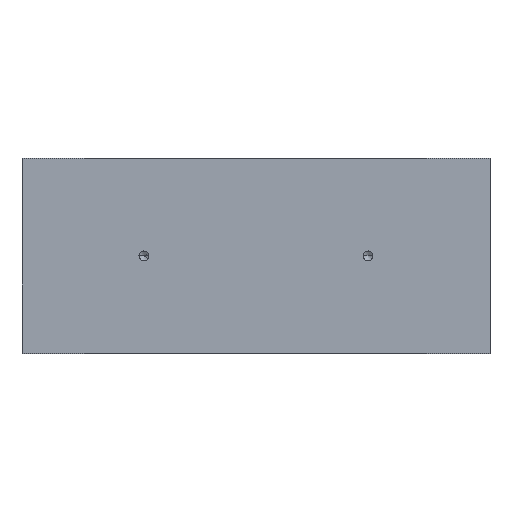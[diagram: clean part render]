
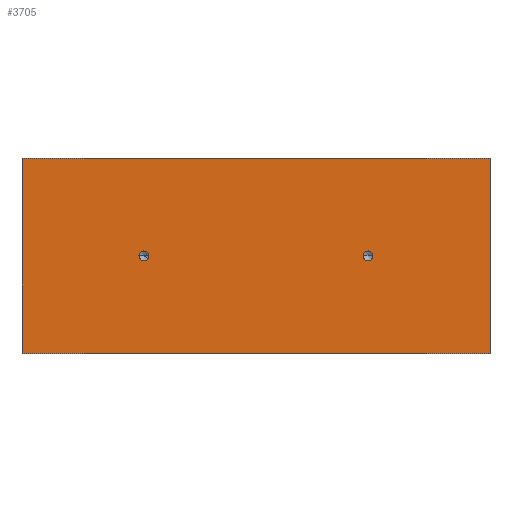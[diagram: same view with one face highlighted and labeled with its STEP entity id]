
A CAD part, top view. The second image highlights one B-rep face of the part: STEP entity #3705.
In plain terms, the highlighted planar face has unit normal (0, 0, 1).
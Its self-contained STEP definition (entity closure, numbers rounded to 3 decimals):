
#44=DIRECTION('',(0.,-1.,0.));
#45=VECTOR('',#44,40.);
#46=CARTESIAN_POINT('',(0.,40.,0.));
#47=LINE('',#46,#45);
#117=DIRECTION('',(1.,0.,0.));
#118=VECTOR('',#117,96.);
#119=CARTESIAN_POINT('',(0.,0.,0.));
#120=LINE('',#119,#118);
#268=DIRECTION('',(1.,0.,0.));
#269=VECTOR('',#268,96.);
#270=CARTESIAN_POINT('',(0.,40.,0.));
#271=LINE('',#270,#269);
#275=CARTESIAN_POINT('',(25.,20.,0.));
#276=DIRECTION('',(0.,0.,1.));
#277=DIRECTION('',(-1.,0.,0.));
#278=AXIS2_PLACEMENT_3D('',#275,#276,#277);
#283=CARTESIAN_POINT('',(25.,20.,0.));
#284=DIRECTION('',(0.,0.,1.));
#285=DIRECTION('',(1.,0.,0.));
#286=AXIS2_PLACEMENT_3D('',#283,#284,#285);
#291=CARTESIAN_POINT('',(71.,20.,0.));
#292=DIRECTION('',(0.,0.,1.));
#293=DIRECTION('',(-1.,0.,0.));
#294=AXIS2_PLACEMENT_3D('',#291,#292,#293);
#299=CARTESIAN_POINT('',(71.,20.,0.));
#300=DIRECTION('',(0.,0.,1.));
#301=DIRECTION('',(1.,0.,0.));
#302=AXIS2_PLACEMENT_3D('',#299,#300,#301);
#472=DIRECTION('',(0.,-1.,0.));
#473=VECTOR('',#472,40.);
#474=CARTESIAN_POINT('',(96.,40.,0.));
#475=LINE('',#474,#473);
#3219=CARTESIAN_POINT('',(0.,0.,0.));
#3221=VERTEX_POINT('',#3219);
#3225=CARTESIAN_POINT('',(0.,40.,0.));
#3226=VERTEX_POINT('',#3225);
#3227=CARTESIAN_POINT('',(96.,0.,0.));
#3229=VERTEX_POINT('',#3227);
#3233=CARTESIAN_POINT('',(96.,40.,0.));
#3234=VERTEX_POINT('',#3233);
#3325=CARTESIAN_POINT('',(24.,20.,0.));
#3326=CARTESIAN_POINT('',(26.,20.,0.));
#3327=VERTEX_POINT('',#3325);
#3328=VERTEX_POINT('',#3326);
#3335=CARTESIAN_POINT('',(70.,20.,0.));
#3336=CARTESIAN_POINT('',(72.,20.,0.));
#3337=VERTEX_POINT('',#3335);
#3338=VERTEX_POINT('',#3336);
#3680=CARTESIAN_POINT('',(0.,40.,0.));
#3681=DIRECTION('',(0.,0.,1.));
#3682=DIRECTION('',(0.,-1.,0.));
#3683=AXIS2_PLACEMENT_3D('',#3680,#3681,#3682);
#3684=PLANE('',#3683);
#3685=ORIENTED_EDGE('',*,*,#3570,.F.);
#3687=ORIENTED_EDGE('',*,*,#3686,.T.);
#3689=ORIENTED_EDGE('',*,*,#3688,.T.);
#3690=ORIENTED_EDGE('',*,*,#3605,.F.);
#3691=EDGE_LOOP('',(#3685,#3687,#3689,#3690));
#3692=FACE_OUTER_BOUND('',#3691,.F.);
#3694=ORIENTED_EDGE('',*,*,#3693,.T.);
#3696=ORIENTED_EDGE('',*,*,#3695,.T.);
#3697=EDGE_LOOP('',(#3694,#3696));
#3698=FACE_BOUND('',#3697,.F.);
#3700=ORIENTED_EDGE('',*,*,#3699,.T.);
#3702=ORIENTED_EDGE('',*,*,#3701,.T.);
#3703=EDGE_LOOP('',(#3700,#3702));
#3704=FACE_BOUND('',#3703,.F.);
#279=CIRCLE('',#278,1.);
#287=CIRCLE('',#286,1.);
#295=CIRCLE('',#294,1.);
#303=CIRCLE('',#302,1.);
#3570=EDGE_CURVE('',#3226,#3221,#47,.T.);
#3605=EDGE_CURVE('',#3221,#3229,#120,.T.);
#3686=EDGE_CURVE('',#3226,#3234,#271,.T.);
#3688=EDGE_CURVE('',#3234,#3229,#475,.T.);
#3693=EDGE_CURVE('',#3327,#3328,#279,.T.);
#3695=EDGE_CURVE('',#3328,#3327,#287,.T.);
#3699=EDGE_CURVE('',#3337,#3338,#295,.T.);
#3701=EDGE_CURVE('',#3338,#3337,#303,.T.);
#3705=ADVANCED_FACE('',(#3692,#3698,#3704),#3684,.T.);
